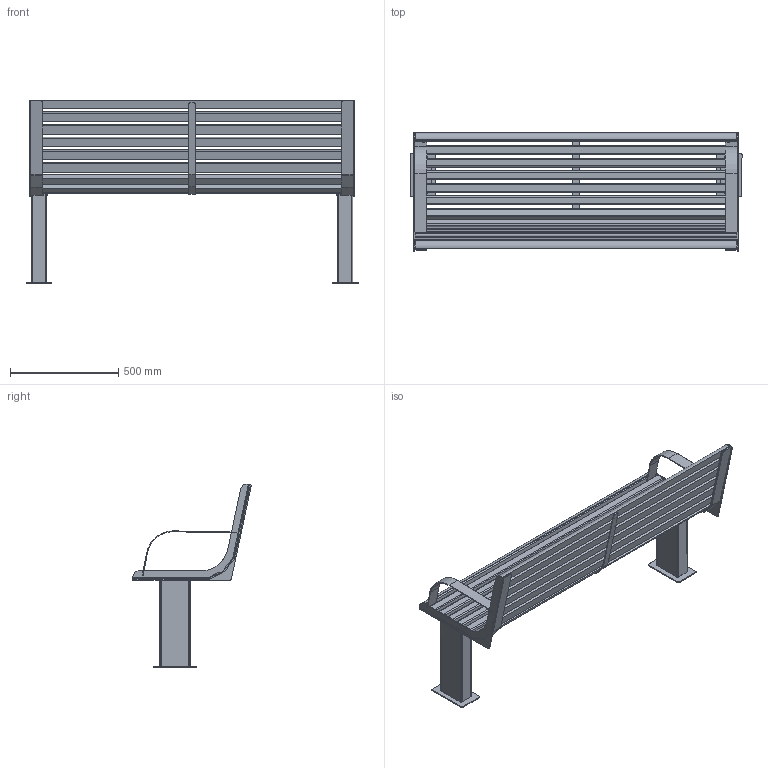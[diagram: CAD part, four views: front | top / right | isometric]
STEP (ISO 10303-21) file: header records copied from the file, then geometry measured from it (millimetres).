
FILE_DESCRIPTION(/* description */ (''),/* implementation_level */ '2;1');
FILE_NAME(/* name */ 'LVI294.00. A SIMPLE.step',/* time_stamp */ '2023-10-16T09:04:58+02:00',/* author */ (''),/* organization */ (''),/* preprocessor_version */ 'ST-DEVELOPER v20',/* originating_system */ 'Autodesk Translation Framework v12.14.0.127',/* authorisation */ '');
FILE_SCHEMA (('AUTOMOTIVE_DESIGN { 1 0 10303 214 3 1 1 }'));
Length unit declared in the file: millimetre
Products named in the file (22): LVI294.00. A SIMPLE; LVI294.01a.01; LVI294.01a.01.01; LVI294.01.a.01.02; LVI294.01a.01.03; LVI294.01a.01.04; LVI294.01a.01.05; LVI294.01a.02; LVI294.01a.02.01; LVI294.01a.02.011; LVI294.01a.03; LVI294.01a.03.01; LVI294.01a.03.011; LVI294.01a.02.03_drewno; LVI294.01a.02.02_drewno; LVI294.01a.00.04; LustroLVI294.01a.01; LustroLVI294.01a.01.01; LustroLVI294.01.a.01.02; LustroLVI294.01a.01.03; LustroLVI294.01a.01.04; LustroLVI294.01a.01.05
Assembly tree (33 placements, depth 3):
  LVI294.00. A SIMPLE
    LVI294.01a.01
      LVI294.01a.01.01
      LVI294.01.a.01.02
      LVI294.01a.01.03
      LVI294.01a.01.04
      LVI294.01a.01.05
    LVI294.01a.02
      LVI294.01a.02.01
      LVI294.01a.02.02_drewno  x6
      LVI294.01a.02.03_drewno
      LVI294.01a.02.011
    LVI294.01a.03
      LVI294.01a.03.01
      LVI294.01a.03.011
      LVI294.01a.02.02_drewno  x6
      LVI294.01a.02.03_drewno
    LVI294.01a.00.04
    LustroLVI294.01a.01
      LustroLVI294.01a.01.01
      LustroLVI294.01.a.01.02
      LustroLVI294.01a.01.03
      LustroLVI294.01a.01.04
      LustroLVI294.01a.01.05
Bounding box: 1537 x 549.28 x 849.61 mm (x, y, z)
Volume: 26920965.2 mm3; surface area: 4360676.3 mm2
Topology: 29 solids, 29 shells, 508 faces, 1230 edges, 780 vertices
Faces by surface type: plane 336, cylinder 172
Entity records: 12824 total; most frequent: DIRECTION 2249, CARTESIAN_POINT 2123, ORIENTED_EDGE 2034, EDGE_CURVE 1017, AXIS2_PLACEMENT_3D 764, LINE 721, VECTOR 721, VERTEX_POINT 638
